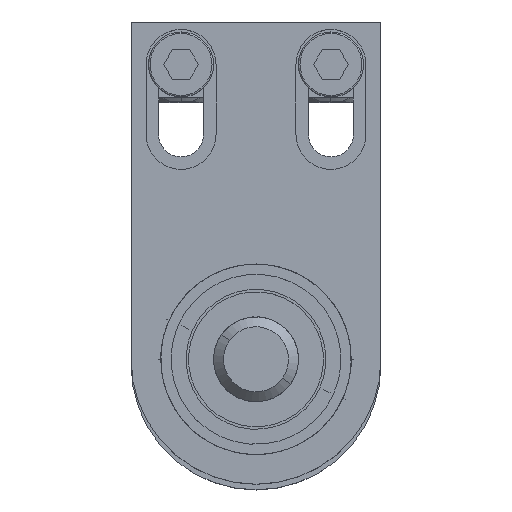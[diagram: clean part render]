
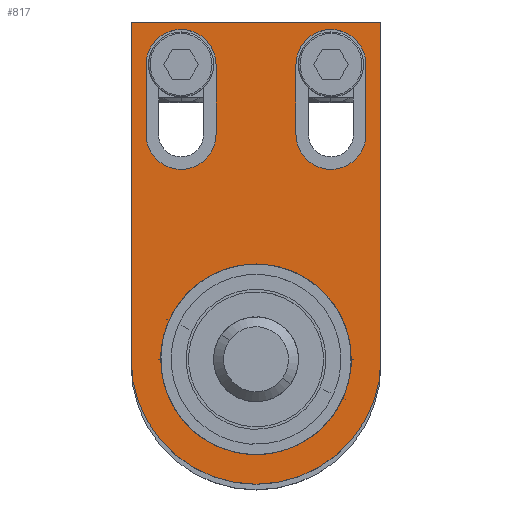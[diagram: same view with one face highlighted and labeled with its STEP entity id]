
A CAD part, top view. The second image highlights one B-rep face of the part: STEP entity #817.
In plain terms, the highlighted planar face has unit normal (0, 0, 1).
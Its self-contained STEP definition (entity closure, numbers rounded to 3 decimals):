
#28 = CIRCLE ( 'NONE', #2079, 19.079 ) ;
#112 = LINE ( 'NONE', #4742, #2374 ) ;
#146 = DIRECTION ( 'NONE',  ( 1., 0., 0. ) ) ;
#194 = DIRECTION ( 'NONE',  ( 1., 0., 0. ) ) ;
#209 = EDGE_CURVE ( 'NONE', #469, #1378, #342, .T. ) ;
#225 = VERTEX_POINT ( 'NONE', #4095 ) ;
#342 = LINE ( 'NONE', #5994, #3256 ) ;
#359 = VERTEX_POINT ( 'NONE', #515 ) ;
#395 = VECTOR ( 'NONE', #665, 1000. ) ;
#469 = VERTEX_POINT ( 'NONE', #1047 ) ;
#515 = CARTESIAN_POINT ( 'NONE',  ( 19.079, 0., 6. ) ) ;
#521 = DIRECTION ( 'NONE',  ( 1., 0., 0. ) ) ;
#554 = CARTESIAN_POINT ( 'NONE',  ( 0., 0., 6. ) ) ;
#665 = DIRECTION ( 'NONE',  ( 0., 1., 0. ) ) ;
#705 = ORIENTED_EDGE ( 'NONE', *, *, #3016, .F. ) ;
#752 = DIRECTION ( 'NONE',  ( 0., 1., 0. ) ) ;
#772 = DIRECTION ( 'NONE',  ( 0., 0., 1. ) ) ;
#817 = ADVANCED_FACE ( 'NONE', ( #4957, #3096, #5927, #2166 ), #4231, .T. ) ;
#836 = VERTEX_POINT ( 'NONE', #1424 ) ;
#844 = DIRECTION ( 'NONE',  ( 0., -1., 0. ) ) ;
#881 = DIRECTION ( 'NONE',  ( 0., 1., 0. ) ) ;
#941 = CARTESIAN_POINT ( 'NONE',  ( -25., 0., 6. ) ) ;
#963 = AXIS2_PLACEMENT_3D ( 'NONE', #3696, #4253, #521 ) ;
#1047 = CARTESIAN_POINT ( 'NONE',  ( 25., 0., 6. ) ) ;
#1066 = LINE ( 'NONE', #3434, #395 ) ;
#1128 = ORIENTED_EDGE ( 'NONE', *, *, #1931, .F. ) ;
#1161 = EDGE_LOOP ( 'NONE', ( #3032, #5670, #3156, #3407 ) ) ;
#1185 = DIRECTION ( 'NONE',  ( 1., 0., 0. ) ) ;
#1231 = DIRECTION ( 'NONE',  ( 1., 0., 0. ) ) ;
#1328 = CARTESIAN_POINT ( 'NONE',  ( 8., 59., 6. ) ) ;
#1362 = LINE ( 'NONE', #941, #3391 ) ;
#1378 = VERTEX_POINT ( 'NONE', #5357 ) ;
#1424 = CARTESIAN_POINT ( 'NONE',  ( -22., 59., 6. ) ) ;
#1488 = LINE ( 'NONE', #5500, #5309 ) ;
#1629 = EDGE_CURVE ( 'NONE', #225, #469, #4483, .T. ) ;
#1713 = AXIS2_PLACEMENT_3D ( 'NONE', #3548, #772, #1185 ) ;
#1917 = DIRECTION ( 'NONE',  ( 1., 0., 0. ) ) ;
#1931 = EDGE_CURVE ( 'NONE', #2243, #2341, #5919, .T. ) ;
#2079 = AXIS2_PLACEMENT_3D ( 'NONE', #3772, #4709, #2420 ) ;
#2081 = CARTESIAN_POINT ( 'NONE',  ( 22., 59., 6. ) ) ;
#2085 = CIRCLE ( 'NONE', #5429, 19.079 ) ;
#2102 = ORIENTED_EDGE ( 'NONE', *, *, #2318, .F. ) ;
#2149 = CIRCLE ( 'NONE', #4872, 7. ) ;
#2166 = FACE_OUTER_BOUND ( 'NONE', #1161, .T. ) ;
#2243 = VERTEX_POINT ( 'NONE', #4561 ) ;
#2267 = EDGE_CURVE ( 'NONE', #2353, #225, #1362, .T. ) ;
#2318 = EDGE_CURVE ( 'NONE', #4655, #836, #5703, .T. ) ;
#2341 = VERTEX_POINT ( 'NONE', #5656 ) ;
#2343 = CARTESIAN_POINT ( 'NONE',  ( -22., 45., 6. ) ) ;
#2353 = VERTEX_POINT ( 'NONE', #2899 ) ;
#2374 = VECTOR ( 'NONE', #3361, 1000. ) ;
#2402 = DIRECTION ( 'NONE',  ( 0., 0., 1. ) ) ;
#2420 = DIRECTION ( 'NONE',  ( 1., 0., 0. ) ) ;
#2508 = LINE ( 'NONE', #4493, #3139 ) ;
#2792 = LINE ( 'NONE', #5367, #5534 ) ;
#2895 = EDGE_CURVE ( 'NONE', #836, #3712, #112, .T. ) ;
#2899 = CARTESIAN_POINT ( 'NONE',  ( -25., 67.5, 6. ) ) ;
#2915 = DIRECTION ( 'NONE',  ( 0., 0., 1. ) ) ;
#2938 = EDGE_CURVE ( 'NONE', #5320, #4655, #1066, .T. ) ;
#3016 = EDGE_CURVE ( 'NONE', #3438, #3170, #2149, .T. ) ;
#3026 = ORIENTED_EDGE ( 'NONE', *, *, #2938, .F. ) ;
#3032 = ORIENTED_EDGE ( 'NONE', *, *, #1629, .T. ) ;
#3040 = EDGE_CURVE ( 'NONE', #3712, #5320, #3388, .T. ) ;
#3096 = FACE_BOUND ( 'NONE', #5928, .T. ) ;
#3139 = VECTOR ( 'NONE', #844, 1000. ) ;
#3156 = ORIENTED_EDGE ( 'NONE', *, *, #4414, .T. ) ;
#3170 = VERTEX_POINT ( 'NONE', #1328 ) ;
#3256 = VECTOR ( 'NONE', #881, 1000. ) ;
#3360 = EDGE_CURVE ( 'NONE', #359, #4687, #28, .T. ) ;
#3361 = DIRECTION ( 'NONE',  ( 0., -1., 0. ) ) ;
#3388 = CIRCLE ( 'NONE', #5269, 7. ) ;
#3391 = VECTOR ( 'NONE', #5547, 1000. ) ;
#3407 = ORIENTED_EDGE ( 'NONE', *, *, #2267, .T. ) ;
#3434 = CARTESIAN_POINT ( 'NONE',  ( -8., 59., 6. ) ) ;
#3438 = VERTEX_POINT ( 'NONE', #2081 ) ;
#3470 = ORIENTED_EDGE ( 'NONE', *, *, #3040, .F. ) ;
#3548 = CARTESIAN_POINT ( 'NONE',  ( 15., 45., 6. ) ) ;
#3661 = DIRECTION ( 'NONE',  ( -1., 0., 0. ) ) ;
#3687 = EDGE_LOOP ( 'NONE', ( #5737, #4201 ) ) ;
#3696 = CARTESIAN_POINT ( 'NONE',  ( 0., 0., 6. ) ) ;
#3712 = VERTEX_POINT ( 'NONE', #2343 ) ;
#3772 = CARTESIAN_POINT ( 'NONE',  ( 0., 0., 6. ) ) ;
#3782 = EDGE_LOOP ( 'NONE', ( #705, #5276, #1128, #5244 ) ) ;
#3860 = DIRECTION ( 'NONE',  ( 0., 0., 1. ) ) ;
#3960 = DIRECTION ( 'NONE',  ( 0., 0., 1. ) ) ;
#4095 = CARTESIAN_POINT ( 'NONE',  ( -25., 0., 6. ) ) ;
#4156 = EDGE_CURVE ( 'NONE', #2341, #3438, #2792, .T. ) ;
#4201 = ORIENTED_EDGE ( 'NONE', *, *, #3360, .F. ) ;
#4231 = PLANE ( 'NONE',  #963 ) ;
#4253 = DIRECTION ( 'NONE',  ( 0., 0., 1. ) ) ;
#4414 = EDGE_CURVE ( 'NONE', #1378, #2353, #1488, .T. ) ;
#4426 = CARTESIAN_POINT ( 'NONE',  ( 15., 59., 6. ) ) ;
#4483 = CIRCLE ( 'NONE', #4637, 25. ) ;
#4493 = CARTESIAN_POINT ( 'NONE',  ( 8., 59., 6. ) ) ;
#4561 = CARTESIAN_POINT ( 'NONE',  ( 8., 45., 6. ) ) ;
#4611 = EDGE_CURVE ( 'NONE', #4687, #359, #2085, .T. ) ;
#4637 = AXIS2_PLACEMENT_3D ( 'NONE', #4817, #3860, #194 ) ;
#4655 = VERTEX_POINT ( 'NONE', #4845 ) ;
#4687 = VERTEX_POINT ( 'NONE', #5672 ) ;
#4709 = DIRECTION ( 'NONE',  ( 0., 0., 1. ) ) ;
#4712 = CARTESIAN_POINT ( 'NONE',  ( -8., 45., 6. ) ) ;
#4742 = CARTESIAN_POINT ( 'NONE',  ( -22., 59., 6. ) ) ;
#4817 = CARTESIAN_POINT ( 'NONE',  ( 0., 0., 6. ) ) ;
#4845 = CARTESIAN_POINT ( 'NONE',  ( -8., 59., 6. ) ) ;
#4872 = AXIS2_PLACEMENT_3D ( 'NONE', #4426, #3960, #1231 ) ;
#4916 = EDGE_CURVE ( 'NONE', #3170, #2243, #2508, .T. ) ;
#4957 = FACE_BOUND ( 'NONE', #3782, .T. ) ;
#5177 = CARTESIAN_POINT ( 'NONE',  ( -15., 59., 6. ) ) ;
#5244 = ORIENTED_EDGE ( 'NONE', *, *, #4916, .F. ) ;
#5269 = AXIS2_PLACEMENT_3D ( 'NONE', #5820, #5278, #5759 ) ;
#5276 = ORIENTED_EDGE ( 'NONE', *, *, #4156, .F. ) ;
#5278 = DIRECTION ( 'NONE',  ( 0., 0., 1. ) ) ;
#5309 = VECTOR ( 'NONE', #3661, 1000. ) ;
#5320 = VERTEX_POINT ( 'NONE', #4712 ) ;
#5357 = CARTESIAN_POINT ( 'NONE',  ( 25., 67.5, 6. ) ) ;
#5367 = CARTESIAN_POINT ( 'NONE',  ( 22., 59., 6. ) ) ;
#5429 = AXIS2_PLACEMENT_3D ( 'NONE', #554, #2402, #146 ) ;
#5500 = CARTESIAN_POINT ( 'NONE',  ( 25., 67.5, 6. ) ) ;
#5534 = VECTOR ( 'NONE', #752, 1000. ) ;
#5547 = DIRECTION ( 'NONE',  ( 0., -1., 0. ) ) ;
#5656 = CARTESIAN_POINT ( 'NONE',  ( 22., 45., 6. ) ) ;
#5670 = ORIENTED_EDGE ( 'NONE', *, *, #209, .T. ) ;
#5672 = CARTESIAN_POINT ( 'NONE',  ( -19.079, 0., 6. ) ) ;
#5703 = CIRCLE ( 'NONE', #5862, 7. ) ;
#5737 = ORIENTED_EDGE ( 'NONE', *, *, #4611, .F. ) ;
#5759 = DIRECTION ( 'NONE',  ( 1., 0., 0. ) ) ;
#5820 = CARTESIAN_POINT ( 'NONE',  ( -15., 45., 6. ) ) ;
#5862 = AXIS2_PLACEMENT_3D ( 'NONE', #5177, #2915, #1917 ) ;
#5892 = ORIENTED_EDGE ( 'NONE', *, *, #2895, .F. ) ;
#5919 = CIRCLE ( 'NONE', #1713, 7. ) ;
#5927 = FACE_BOUND ( 'NONE', #3687, .T. ) ;
#5928 = EDGE_LOOP ( 'NONE', ( #2102, #3026, #3470, #5892 ) ) ;
#5994 = CARTESIAN_POINT ( 'NONE',  ( 25., 0., 6. ) ) ;
